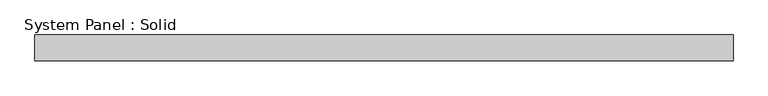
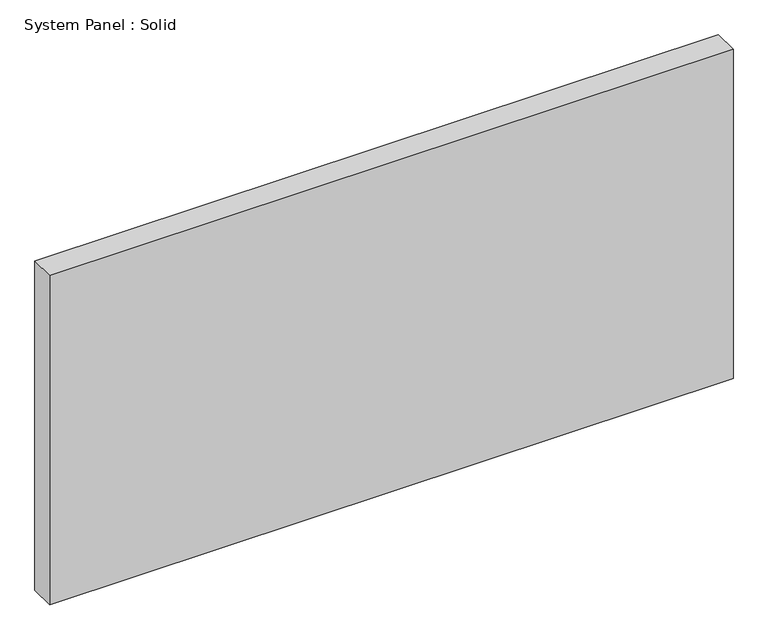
"""IFC4 building model written with IfcOpenShell, lengths in millimetres: plate geometry, System Panel : Solid."""

from ifc_helpers import new_model, si_unit, origin, origin_with_axes, place, context, project, spatial, polyline, outline, extrude, source, transform, mapped, element, save


def system_panel_solid_de8e760c(model_context):
    return source(origin(), model_context, "Body", "SweptSolid", [
        extrude(outline(polyline([(857.1642504, -19.05), (-857.1642504, -19.05), (-857.1642504, 44.45), (857.1642504, 44.45), (857.1642504, -19.05)])), origin_with_axes(), (0.0, 0.0, 1.0), 873.1346896),
    ])


if __name__ == "__main__":
    model = new_model("IFC4")
    model_context = context("Model", 3, world=origin())
    ifc_project = project(units=[si_unit("LENGTHUNIT", "METRE", prefix="MILLI")], contexts=[model_context])
    site = spatial("IfcSite", under=ifc_project)
    building = spatial("IfcBuilding", under=site)
    placement = place(None, origin())
    system_panel_solid_shape = system_panel_solid_de8e760c(model_context)
    element("IfcPlate", 1, ObjectType="System Panel : Solid", at=placement, inside=building, context=model_context, shape_type="MappedRepresentation", body=[
        mapped(system_panel_solid_shape, transform((0.0, 0.0, 0.0), x_axis=(1.0, 0.0, 0.0), y_axis=(0.0, 1.0, 0.0), z_axis=(0.0, 0.0, 1.0))),
    ])
    save(model, "model.ifc")
